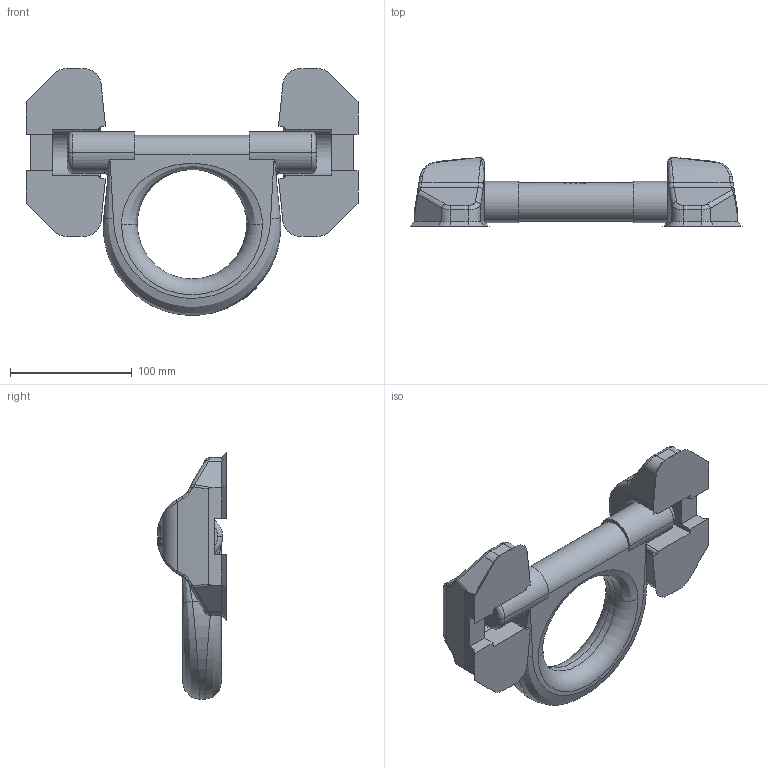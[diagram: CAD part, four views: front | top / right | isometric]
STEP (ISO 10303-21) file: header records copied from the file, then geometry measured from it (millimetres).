
FILE_DESCRIPTION((''),'2;1');
FILE_NAME('001-M31835-P-90_ASM','2008-10-28T',('Azubitbm'),('RAND'),'PRO/ENGINEER BY PARAMETRIC TECHNOLOGY CORPORATION, 2005030','PRO/ENGINEER BY PARAMETRIC TECHNOLOGY CORPORATION, 2005030','');
FILE_SCHEMA(('CONFIG_CONTROL_DESIGN'));
Length unit declared in the file: millimetre
Products named in the file (3): 001-M31835-P-1; 001-M31834-P-1; 001-M31835-P-90_ASM
Assembly tree (3 placements, depth 2):
  001-M31835-P-90_ASM
    001-M31835-P-1  x2
    001-M31834-P-1
Bounding box: 273 x 56.56 x 202.97 mm (x, y, z)
Volume: 818342.3 mm3; surface area: 107639.6 mm2
Topology: 3 solids, 3 shells, 816 faces, 2237 edges, 1446 vertices
Faces by surface type: plane 672, cylinder 62, bspline 62, cone 12, torus 8
Entity records: 19780 total; most frequent: CARTESIAN_POINT 7174, ORIENTED_EDGE 2770, DIRECTION 2315, EDGE_CURVE 1385, VECTOR 1173, LINE 1173, VERTEX_POINT 900, AXIS2_PLACEMENT_3D 571
